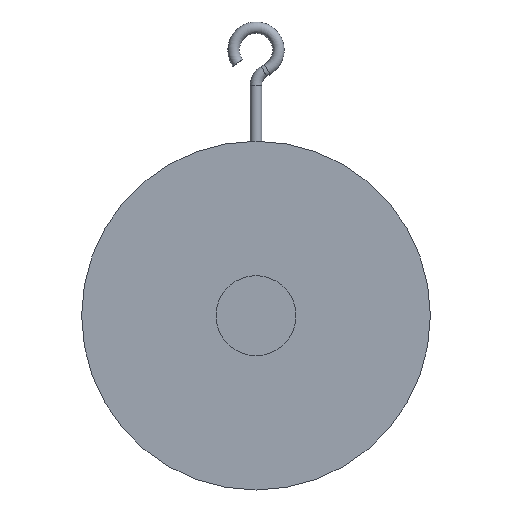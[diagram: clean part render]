
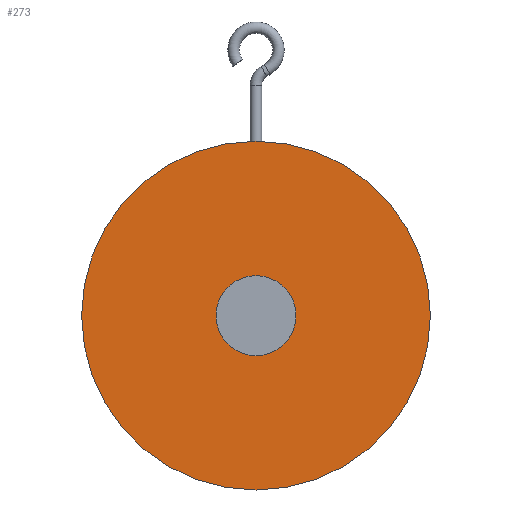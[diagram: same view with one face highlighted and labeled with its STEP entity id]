
A CAD part, front view. The second image highlights one B-rep face of the part: STEP entity #273.
In plain terms, the highlighted planar face has unit normal (0, -1, 0).
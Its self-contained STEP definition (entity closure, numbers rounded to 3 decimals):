
#273=ADVANCED_FACE('',(#525,#527),#529,.T.);
#525=FACE_BOUND('',#526,.T.);
#526=EDGE_LOOP('',(#702));
#527=FACE_BOUND('',#528,.T.);
#528=EDGE_LOOP('',(#703));
#529=PLANE('',#530);
#530=AXIS2_PLACEMENT_3D('',#531,#532,#533);
#531=CARTESIAN_POINT('',(0.,-8.,0.));
#532=DIRECTION('',(0.,-1.,0.));
#533=DIRECTION('',(0.,0.,1.));
#702=ORIENTED_EDGE('',*,*,#772,.F.);
#703=ORIENTED_EDGE('',*,*,#774,.T.);
#772=EDGE_CURVE('',#877,#877,#878,.T.);
#774=EDGE_CURVE('',#881,#881,#882,.T.);
#877=VERTEX_POINT('',#1318);
#878=CIRCLE('',#1319,54.5);
#881=VERTEX_POINT('',#1328);
#882=CIRCLE('',#1329,12.5);
#1318=CARTESIAN_POINT('',(0.,-8.,54.5));
#1319=AXIS2_PLACEMENT_3D('',#1320,#1321,#1322);
#1320=CARTESIAN_POINT('',(0.,-8.,0.));
#1321=DIRECTION('',(0.,1.,0.));
#1322=DIRECTION('',(0.,0.,1.));
#1328=CARTESIAN_POINT('',(0.,-8.,12.5));
#1329=AXIS2_PLACEMENT_3D('',#1330,#1331,#1332);
#1330=CARTESIAN_POINT('',(0.,-8.,0.));
#1331=DIRECTION('',(0.,1.,0.));
#1332=DIRECTION('',(0.,0.,1.));
